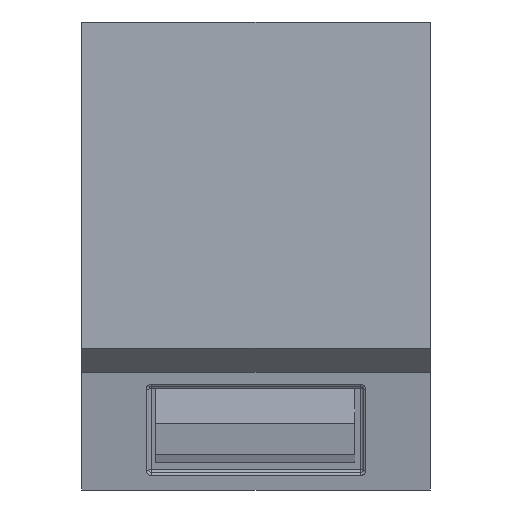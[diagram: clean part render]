
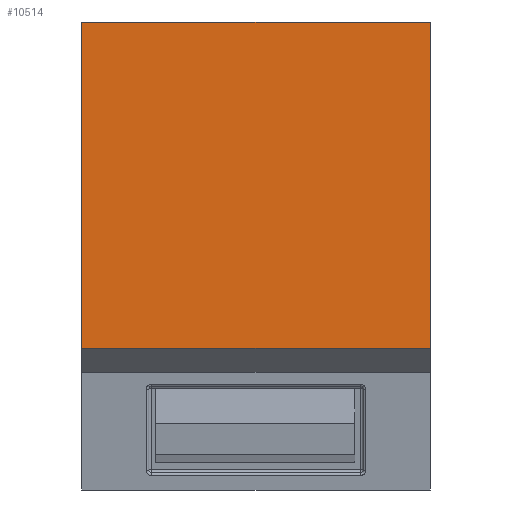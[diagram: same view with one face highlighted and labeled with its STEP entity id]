
A CAD part, front view. The second image highlights one B-rep face of the part: STEP entity #10514.
In plain terms, the highlighted planar face has unit normal (0, -1, 0).
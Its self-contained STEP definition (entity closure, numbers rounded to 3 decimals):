
#430 = DIRECTION ( 'NONE',  ( -1., 0., 0. ) ) ;
#561 = VECTOR ( 'NONE', #1055, 1000. ) ;
#1055 = DIRECTION ( 'NONE',  ( 0., 0., 1. ) ) ;
#1204 = DIRECTION ( 'NONE',  ( 0., 0., 1. ) ) ;
#1216 = CARTESIAN_POINT ( 'NONE',  ( -35., 0., 29.5 ) ) ;
#1239 = VERTEX_POINT ( 'NONE', #12251 ) ;
#1376 = ORIENTED_EDGE ( 'NONE', *, *, #4895, .T. ) ;
#1440 = VERTEX_POINT ( 'NONE', #5412 ) ;
#2376 = ORIENTED_EDGE ( 'NONE', *, *, #4130, .F. ) ;
#2597 = VERTEX_POINT ( 'NONE', #13627 ) ;
#2947 = VERTEX_POINT ( 'NONE', #1216 ) ;
#4130 = EDGE_CURVE ( 'NONE', #1239, #2947, #9570, .T. ) ;
#4202 = EDGE_CURVE ( 'NONE', #2597, #1239, #7069, .T. ) ;
#4230 = CARTESIAN_POINT ( 'NONE',  ( 35., 0., 0. ) ) ;
#4324 = VECTOR ( 'NONE', #430, 1000. ) ;
#4895 = EDGE_CURVE ( 'NONE', #2597, #1440, #10062, .T. ) ;
#5181 = LINE ( 'NONE', #9739, #4324 ) ;
#5412 = CARTESIAN_POINT ( 'NONE',  ( 35., 0., 29.5 ) ) ;
#5862 = VECTOR ( 'NONE', #1204, 1000. ) ;
#7069 = LINE ( 'NONE', #14792, #14250 ) ;
#8210 = ORIENTED_EDGE ( 'NONE', *, *, #9096, .T. ) ;
#8231 = AXIS2_PLACEMENT_3D ( 'NONE', #13384, #13451, #9754 ) ;
#8584 = EDGE_LOOP ( 'NONE', ( #2376, #12204, #1376, #8210 ) ) ;
#9096 = EDGE_CURVE ( 'NONE', #1440, #2947, #5181, .T. ) ;
#9570 = LINE ( 'NONE', #11489, #5862 ) ;
#9739 = CARTESIAN_POINT ( 'NONE',  ( 35., 0., 29.5 ) ) ;
#9754 = DIRECTION ( 'NONE',  ( 0., 0., -1. ) ) ;
#10054 = FACE_OUTER_BOUND ( 'NONE', #8584, .T. ) ;
#10062 = LINE ( 'NONE', #4230, #561 ) ;
#10514 = ADVANCED_FACE ( 'NONE', ( #10054 ), #13308, .T. ) ;
#11489 = CARTESIAN_POINT ( 'NONE',  ( -35., 0., 0. ) ) ;
#11643 = DIRECTION ( 'NONE',  ( -1., 0., 0. ) ) ;
#12204 = ORIENTED_EDGE ( 'NONE', *, *, #4202, .F. ) ;
#12251 = CARTESIAN_POINT ( 'NONE',  ( -35., 0., -36. ) ) ;
#13308 = PLANE ( 'NONE',  #8231 ) ;
#13384 = CARTESIAN_POINT ( 'NONE',  ( 35., 0., 0. ) ) ;
#13451 = DIRECTION ( 'NONE',  ( 0., -1., 0. ) ) ;
#13627 = CARTESIAN_POINT ( 'NONE',  ( 35., 0., -36. ) ) ;
#14250 = VECTOR ( 'NONE', #11643, 1000. ) ;
#14792 = CARTESIAN_POINT ( 'NONE',  ( 35., 0., -36. ) ) ;
